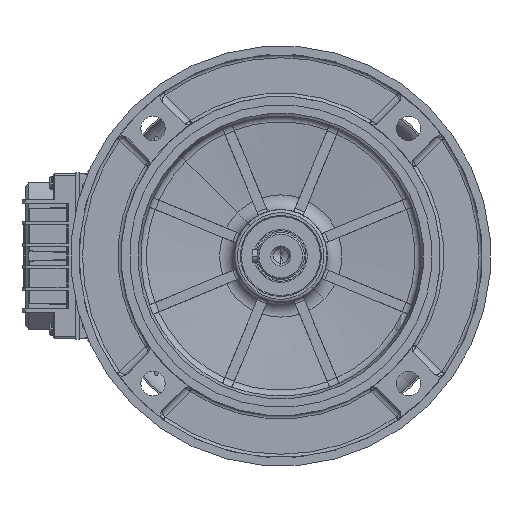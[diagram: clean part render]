
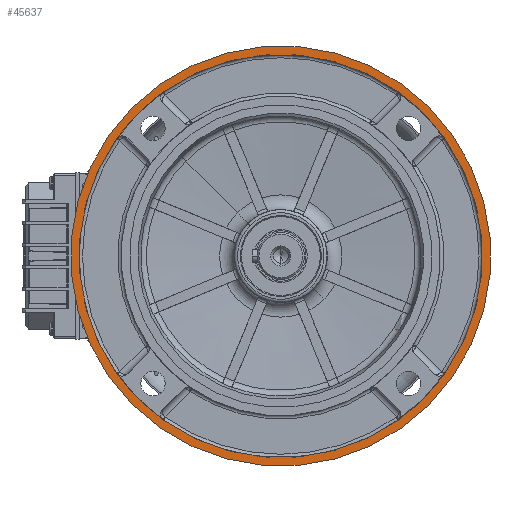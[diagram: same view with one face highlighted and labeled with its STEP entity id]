
A CAD part, left-side view. The second image highlights one B-rep face of the part: STEP entity #45637.
In plain terms, the highlighted planar face has unit normal (-1, 0, 0) as drawn and (0, 1, 0) by its records, which use the part's own axes.
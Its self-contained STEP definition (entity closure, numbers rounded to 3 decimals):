
#2057 = CARTESIAN_POINT ( 'NONE',  ( 0., 46., 0. ) ) ;
#4809 = AXIS2_PLACEMENT_3D ( 'NONE', #34420, #104098, #99356 ) ;
#5454 = VERTEX_POINT ( 'NONE', #18354 ) ;
#12036 = DIRECTION ( 'NONE',  ( 0., 0., 1. ) ) ;
#12499 = DIRECTION ( 'NONE',  ( 0., 1., 0. ) ) ;
#14213 = FACE_OUTER_BOUND ( 'NONE', #39959, .T. ) ;
#15626 = VERTEX_POINT ( 'NONE', #113814 ) ;
#18354 = CARTESIAN_POINT ( 'NONE',  ( 0., 46., 125. ) ) ;
#19979 = CIRCLE ( 'NONE', #120550, 125. ) ;
#26121 = ORIENTED_EDGE ( 'NONE', *, *, #56468, .F. ) ;
#27024 = ORIENTED_EDGE ( 'NONE', *, *, #80214, .F. ) ;
#34234 = CIRCLE ( 'NONE', #108017, 120. ) ;
#34420 = CARTESIAN_POINT ( 'NONE',  ( 95., 46., 0. ) ) ;
#37596 = FACE_BOUND ( 'NONE', #125728, .T. ) ;
#39959 = EDGE_LOOP ( 'NONE', ( #43365, #122040 ) ) ;
#43138 = AXIS2_PLACEMENT_3D ( 'NONE', #2057, #71643, #12036 ) ;
#43141 = EDGE_CURVE ( 'NONE', #5454, #106501, #19979, .T. ) ;
#43365 = ORIENTED_EDGE ( 'NONE', *, *, #43141, .T. ) ;
#43964 = PLANE ( 'NONE',  #4809 ) ;
#45637 = ADVANCED_FACE ( 'NONE', ( #37596, #14213 ), #43964, .F. ) ;
#55024 = CIRCLE ( 'NONE', #43138, 125. ) ;
#56468 = EDGE_CURVE ( 'NONE', #58714, #15626, #34234, .T. ) ;
#57646 = CARTESIAN_POINT ( 'NONE',  ( 0., 46., 0. ) ) ;
#58714 = VERTEX_POINT ( 'NONE', #68287 ) ;
#59530 = CARTESIAN_POINT ( 'NONE',  ( 0., 46., 0. ) ) ;
#67635 = DIRECTION ( 'NONE',  ( 0., 0., 1. ) ) ;
#68287 = CARTESIAN_POINT ( 'NONE',  ( 0., 46., 120. ) ) ;
#69017 = EDGE_CURVE ( 'NONE', #106501, #5454, #55024, .T. ) ;
#69521 = DIRECTION ( 'NONE',  ( 0., 0., 1. ) ) ;
#71643 = DIRECTION ( 'NONE',  ( 0., 1., 0. ) ) ;
#72113 = CARTESIAN_POINT ( 'NONE',  ( 0., 46., 0. ) ) ;
#79943 = AXIS2_PLACEMENT_3D ( 'NONE', #59530, #129186, #69521 ) ;
#80214 = EDGE_CURVE ( 'NONE', #15626, #58714, #89536, .T. ) ;
#82120 = DIRECTION ( 'NONE',  ( 0., 0., 1. ) ) ;
#89536 = CIRCLE ( 'NONE', #79943, 120. ) ;
#99356 = DIRECTION ( 'NONE',  ( 0., 0., -1. ) ) ;
#104098 = DIRECTION ( 'NONE',  ( 0., -1., 0. ) ) ;
#106501 = VERTEX_POINT ( 'NONE', #111868 ) ;
#108017 = AXIS2_PLACEMENT_3D ( 'NONE', #72113, #12499, #82120 ) ;
#111868 = CARTESIAN_POINT ( 'NONE',  ( 0., 46., -125. ) ) ;
#113814 = CARTESIAN_POINT ( 'NONE',  ( 0., 46., -120. ) ) ;
#120550 = AXIS2_PLACEMENT_3D ( 'NONE', #57646, #127311, #67635 ) ;
#122040 = ORIENTED_EDGE ( 'NONE', *, *, #69017, .T. ) ;
#125728 = EDGE_LOOP ( 'NONE', ( #26121, #27024 ) ) ;
#127311 = DIRECTION ( 'NONE',  ( 0., 1., 0. ) ) ;
#129186 = DIRECTION ( 'NONE',  ( 0., 1., 0. ) ) ;
